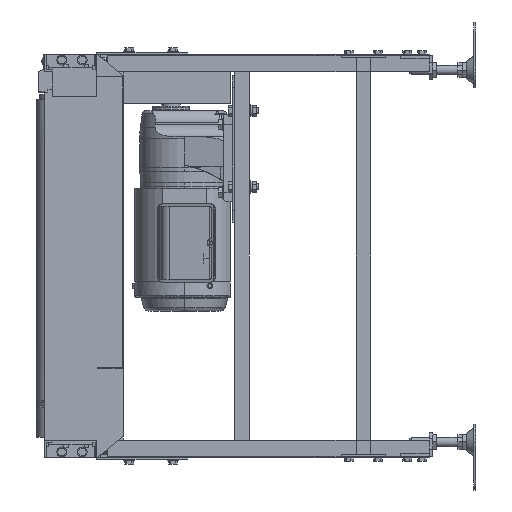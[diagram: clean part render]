
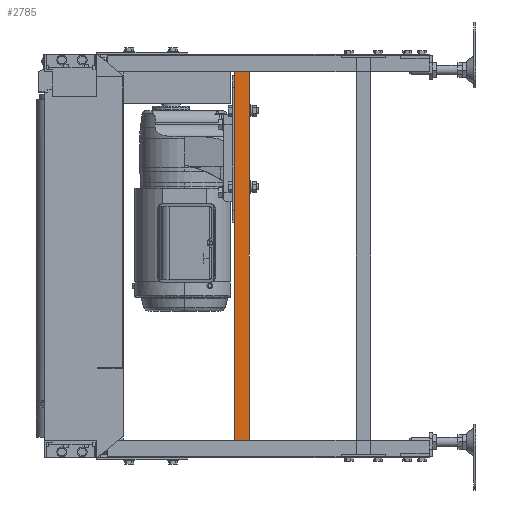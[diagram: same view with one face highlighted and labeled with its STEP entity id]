
A CAD part, left-side view. The second image highlights one B-rep face of the part: STEP entity #2785.
In plain terms, the highlighted planar face has unit normal (-1, 0, 0).
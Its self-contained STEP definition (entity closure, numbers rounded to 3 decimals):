
#2785=ADVANCED_FACE('',(#20058),#20057,.F.);
#20057=PLANE('',#45086);
#20058=FACE_OUTER_BOUND('',#45087,.T.);
#45083=CARTESIAN_POINT('',(2694.5,-366.3,346.));
#45084=DIRECTION('',(1.,0.,0.));
#45085=DIRECTION('',(0.,0.,-1.));
#45086=AXIS2_PLACEMENT_3D('',#45083,#45084,#45085);
#45087=EDGE_LOOP('',(#62251,#62252,#62253,#62254));
#62251=ORIENTED_EDGE('',*,*,#74650,.F.);
#62252=ORIENTED_EDGE('',*,*,#74651,.T.);
#62253=ORIENTED_EDGE('',*,*,#74531,.T.);
#62254=ORIENTED_EDGE('',*,*,#74583,.F.);
#74531=EDGE_CURVE('',#105281,#105273,#105282,.T.);
#74583=EDGE_CURVE('',#105634,#105273,#105641,.T.);
#74650=EDGE_CURVE('',#106076,#105634,#106077,.T.);
#74651=EDGE_CURVE('',#106076,#105281,#106083,.T.);
#105273=VERTEX_POINT('',#148321);
#105281=VERTEX_POINT('',#148326);
#105282=LINE('',#148327,#148328);
#105634=VERTEX_POINT('',#148529);
#105641=LINE('',#148533,#148534);
#106076=VERTEX_POINT('',#148772);
#106077=LINE('',#148773,#148774);
#106083=LINE('',#148776,#148777);
#148321=CARTESIAN_POINT('',(2694.5,-338.8,336.));
#148326=CARTESIAN_POINT('',(2694.5,-363.8,336.));
#148327=CARTESIAN_POINT('',(2694.5,-363.8,336.));
#148328=VECTOR('',#148329,25.);
#148329=DIRECTION('',(0.,1.,0.));
#148529=CARTESIAN_POINT('',(2694.5,-338.8,-294.));
#148533=CARTESIAN_POINT('',(2694.5,-338.8,-294.));
#148534=VECTOR('',#148535,630.);
#148535=DIRECTION('',(0.,0.,1.));
#148772=CARTESIAN_POINT('',(2694.5,-363.8,-294.));
#148773=CARTESIAN_POINT('',(2694.5,-363.8,-294.));
#148774=VECTOR('',#148775,25.);
#148775=DIRECTION('',(0.,1.,0.));
#148776=CARTESIAN_POINT('',(2694.5,-363.8,-294.));
#148777=VECTOR('',#148778,630.);
#148778=DIRECTION('',(0.,0.,1.));
